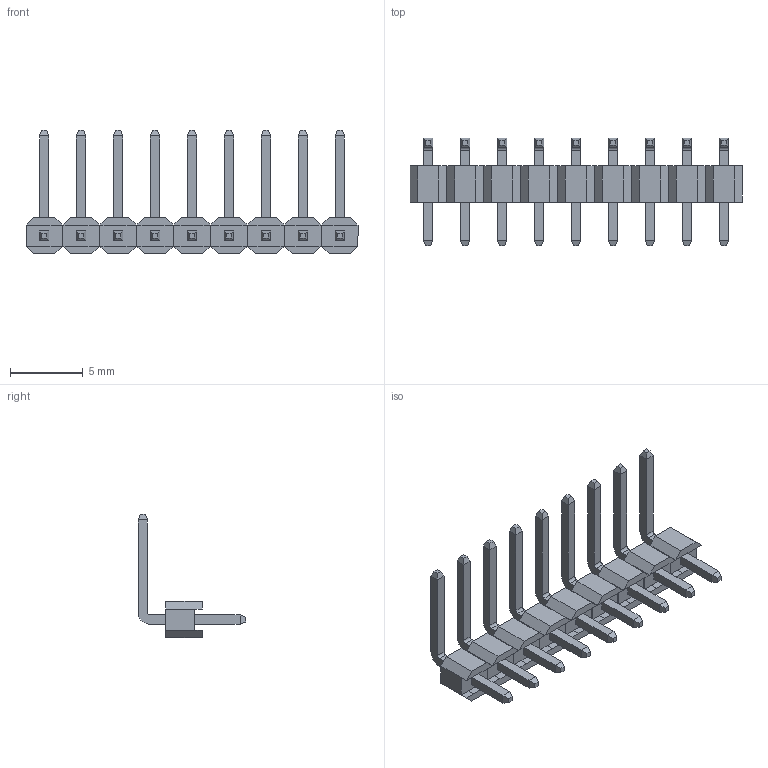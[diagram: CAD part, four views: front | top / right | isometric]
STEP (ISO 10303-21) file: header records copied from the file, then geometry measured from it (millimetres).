
FILE_DESCRIPTION (( 'STEP AP203' ), '1' );
FILE_NAME ('PZ254-1-09-WR-2.5-XX(L7.4) (2.54双排 反弯排针 塑高2.5-HCTL).STEP', '2026-04-30T09:18:37', ( '' ), ( '' ), 'SwSTEP 2.0', 'SolidWorks 2025', '' );
FILE_SCHEMA (( 'CONFIG_CONTROL_DESIGN' ));
Length unit declared in the file: millimetre
Products named in the file (1): PZ254-1-09-WR-2.5-XX(L7.4) (2.54双排 反弯排针 塑高2.5-HCTL)
Bounding box: 22.82 x 7.4 x 8.5 mm (x, y, z)
Volume: 156.5 mm3; surface area: 629.1 mm2
Topology: 17 solids, 17 shells, 408 faces, 960 edges, 604 vertices
Faces by surface type: plane 390, cylinder 18
Entity records: 11381 total; most frequent: CARTESIAN_POINT 1973, ORIENTED_EDGE 1920, DIRECTION 1814, EDGE_CURVE 960, VECTOR 924, LINE 924, VERTEX_POINT 604, AXIS2_PLACEMENT_3D 445
